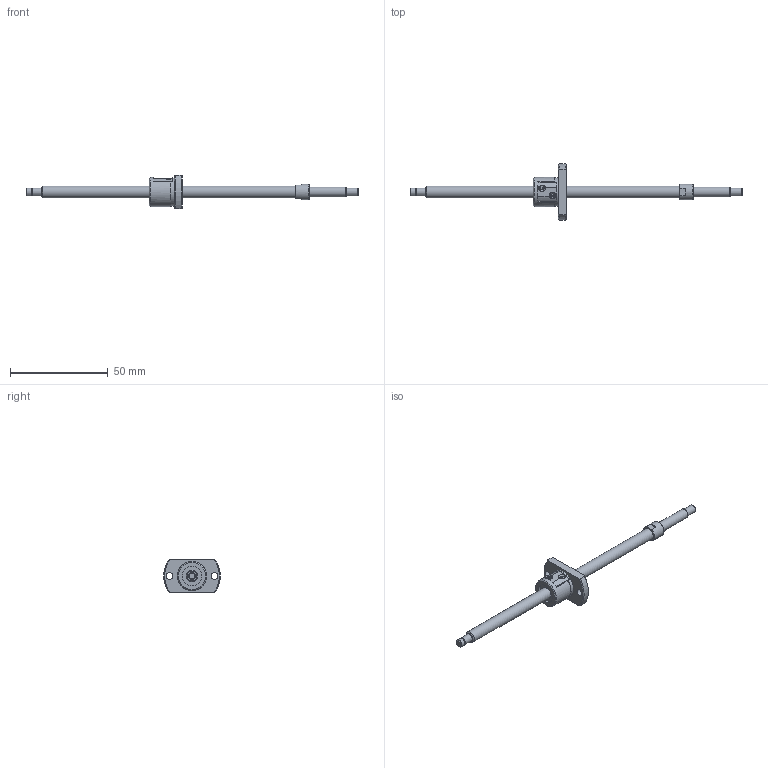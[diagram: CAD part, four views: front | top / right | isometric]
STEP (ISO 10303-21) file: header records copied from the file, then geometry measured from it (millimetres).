
FILE_DESCRIPTION(/* description */ ('STEP AP214'),/* implementation_level */ '2;1');
FILE_NAME(/* name */ 'SG0602-127R170C5B0X(55)',/* time_stamp */ '2026-07-20T20:14:55+02:00',/* author */ ('License CC BY-ND 4.0'),/* organization */ ('CADENAS'),/* preprocessor_version */ 'ST-DEVELOPER v20',/* originating_system */ 'PARTsolutions',/* authorisation */ ' ');
FILE_SCHEMA (('AUTOMOTIVE_DESIGN {1 0 10303 214 3 1 1}'));
Length unit declared in the file: millimetre
Products named in the file (3): SG0602-127R170C5B0X(55); SG0602-127R170C5B_shaft; SG0602 C5_nut
Assembly tree (2 placements, depth 2):
  SG0602-127R170C5B0X(55)
    SG0602-127R170C5B_shaft
    SG0602 C5_nut
Bounding box: 170 x 29 x 17 mm (x, y, z)
Volume: 7969.3 mm3; surface area: 5402 mm2
Topology: 2 solids, 2 shells, 78 faces, 185 edges, 122 vertices
Faces by surface type: plane 37, cylinder 26, cone 14, torus 1
Full cylindrical faces by diameter (mm): 3.4 x2, 3.7 x1, 4 x3, 5 x1, 6 x2, 8 x1, 10 x2, 14.6 x1, 15 x1
Entity records: 2167 total; most frequent: CARTESIAN_POINT 403, DIRECTION 368, ORIENTED_EDGE 300, AXIS2_PLACEMENT_3D 155, EDGE_CURVE 150, EDGE_LOOP 120, FACE_BOUND 120, VERTEX_POINT 112
